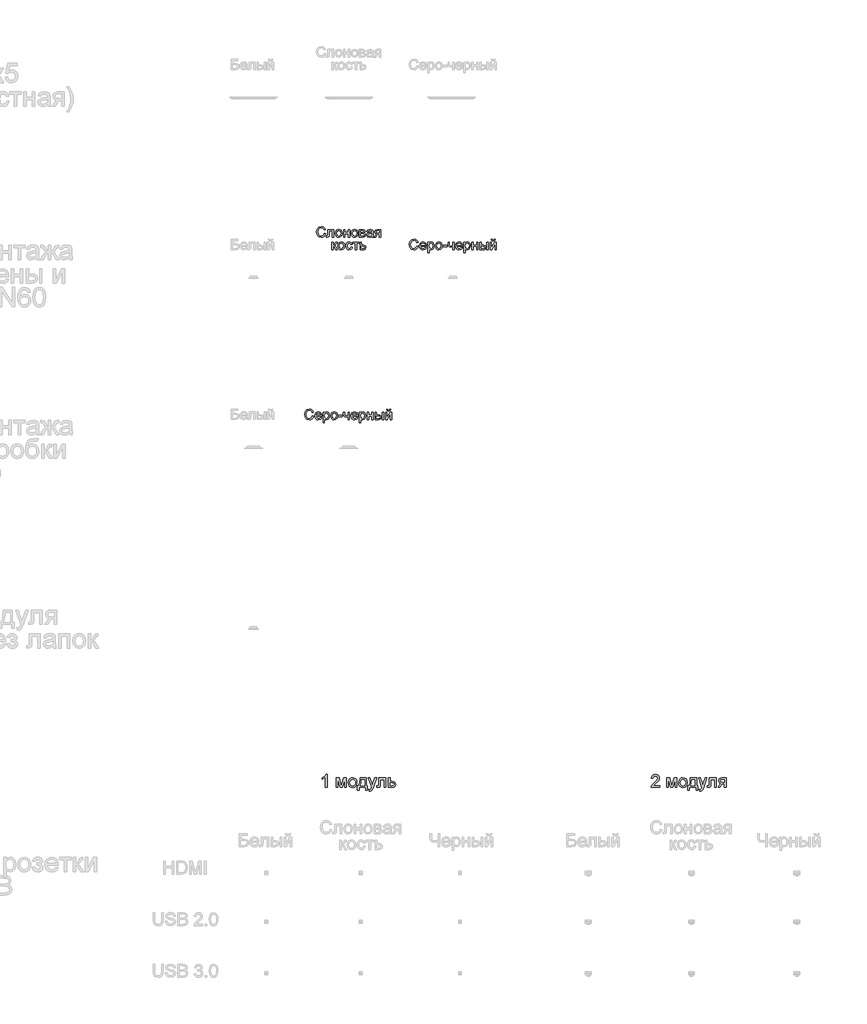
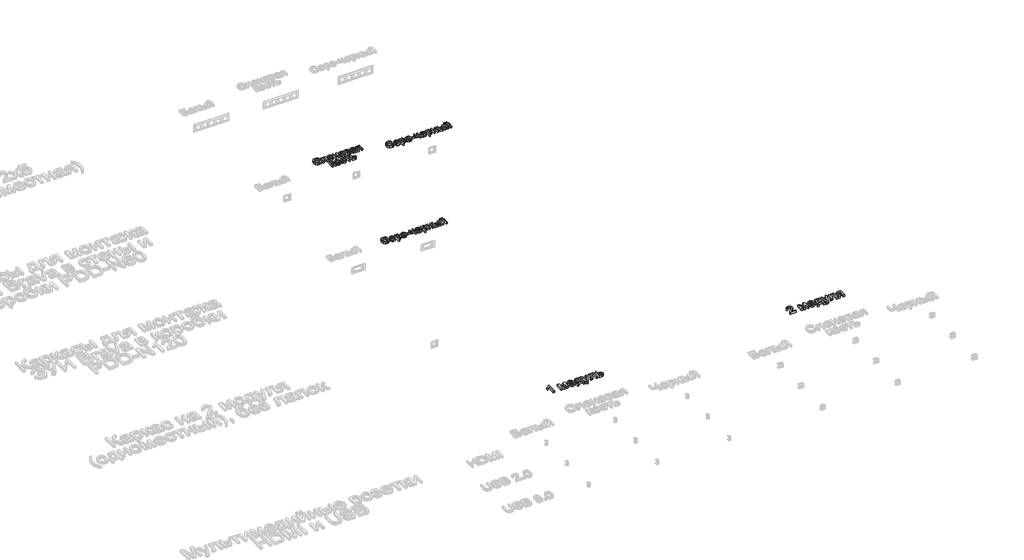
# One storey, part 38 of 47: 5 proxies.
"""IFC4 building model written with IfcOpenShell, lengths in millimetres."""

from ifc_helpers import new_model, si_unit, origin, origin_with_axes, place, context, project, spatial, polyline, outline, extrude, element, save

model = new_model("IFC4")

# Units and contexts
model_context = context("Model", 3, world=origin())
ifc_project = project(units=[si_unit("LENGTHUNIT", "METRE", prefix="MILLI")], contexts=[model_context])

# Site, building, storey
site = spatial("IfcSite", under=ifc_project)
building = spatial("IfcBuilding", under=site)
storey = spatial("IfcBuildingStorey", under=building, Name="Этаж 01", Elevation=0.0)

# Proxies
placement = place(None, origin())
element("IfcBuildingElementProxy", 1, Name="100 мм Arial", ObjectType="100 мм Arial", at=placement, inside=storey, context=model_context, shape_type="SweptSolid", body=[
    extrude(outline(polyline([(575.82677, -7703.8522966), (563.2697312, -7703.8522966), (563.2697312, -7625.567008), (551.37488, -7634.0405567), (538.1556536, -7640.3803897), (538.1556536, -7628.510064), (556.5620161, -7616.7623656), (567.7333661, -7603.3959865), (575.82677, -7603.3959865), (575.82677, -7703.8522966)])), origin_with_axes(), (0.0, 0.0, 1.0), 20.0),
    extrude(outline(polyline([(648.0297429, -7630.0796938), (669.6366787, -7630.0796938), (686.2894704, -7689.1370168), (704.2421117, -7630.0796938), (724.9416053, -7630.0796938), (724.9416053, -7703.8522966), (712.3845666, -7703.8522966), (712.3845666, -7644.4516171), (694.3338233, -7703.8522966), (677.85271, -7703.8522966), (660.5867816, -7641.606663), (660.5867816, -7703.8522966), (648.0297429, -7703.8522966), (648.0297429, -7630.0796938)])), origin_with_axes(), (0.0, 0.0, 1.0), 20.0),
    extrude(outline(polyline([(740.6379038, -7666.9659952), (743.3540992, -7649.1789008), (751.5026854, -7636.6770443), (761.5703893, -7630.5518091), (773.624656, -7628.510064), (786.8162912, -7630.9963332), (797.3530447, -7638.4551406), (804.2600292, -7650.2978752), (806.5623573, -7665.9359256), (802.4911299, -7688.2786255), (790.6330669, -7700.9215034), (773.624656, -7705.4219265), (760.2736053, -7702.9448544), (749.7491145, -7695.5136381), (742.9157065, -7683.4225831), (740.6379038, -7666.9659952)]), holes=[polyline([(753.1949426, -7666.9414698), (754.6480764, -7678.3059577), (759.0074781, -7686.4024273), (765.5680403, -7691.2492726), (773.624656, -7692.8648877), (781.6444835, -7691.2400755), (788.192783, -7686.3656391), (792.5521847, -7678.1618706), (794.0053186, -7666.5490623), (792.5429876, -7655.5156681), (788.1559948, -7647.5295632), (781.5984983, -7642.6827179), (773.624656, -7641.0671028), (765.5680403, -7642.6765865), (759.0074781, -7647.5050377), (754.6480764, -7655.5831132), (753.1949426, -7666.9414698)])]), origin_with_axes(), (0.0, 0.0, 1.0), 20.0),
    extrude(outline(polyline([(831.6764349, -7630.0796938), (878.7653302, -7630.0796938), (878.7653302, -7691.2952578), (888.1831093, -7691.2952578), (888.1831093, -7724.2574846), (875.6260706, -7724.2574846), (875.6260706, -7703.8522966), (823.8282856, -7703.8522966), (823.8282856, -7724.2574846), (811.2712469, -7724.2574846), (811.2712469, -7691.2952578), (819.1193961, -7691.2952578), (828.819218, -7667.34614), (831.6764349, -7630.0796938)]), holes=[polyline([(842.6638438, -7642.6367326), (839.7207878, -7671.2456891), (833.2460647, -7691.2952578), (866.2082915, -7691.2952578), (866.2082915, -7642.6367326), (842.6638438, -7642.6367326)])]), origin_with_axes(), (0.0, 0.0, 1.0), 20.0),
    extrude(outline(polyline([(902.3097779, -7732.1056338), (900.7401481, -7720.0145789), (907.1167693, -7721.1182249), (913.0764577, -7719.7325361), (916.7307522, -7715.8697751), (920.1643174, -7706.6236743), (921.1453361, -7703.5825165), (894.4616287, -7630.0796938), (907.7053805, -7630.0796938), (921.8565746, -7671.0372226), (926.7861934, -7687.4202342), (931.7158121, -7672.950209), (946.2594136, -7630.0796938), (959.4050636, -7630.0796938), (933.7269003, -7705.6181302), (927.0559735, -7722.0011417), (919.77191, -7730.8548351), (909.9862489, -7733.6752637), (902.3097779, -7732.1056338)])), origin_with_axes(), (0.0, 0.0, 1.0), 20.0),
    extrude(outline(polyline([(976.0823807, -7630.0796938), (1032.5890552, -7630.0796938), (1032.5890552, -7703.7787202), (1020.0320164, -7703.7787202), (1020.0320164, -7642.6367326), (988.6394195, -7642.6367326), (988.6394195, -7677.8307768), (987.7932909, -7694.0666355), (983.145715, -7700.9215034), (972.1583061, -7703.8522966), (961.9557121, -7703.2146345), (961.9557121, -7691.2952578), (967.5720439, -7691.2952578), (973.2496893, -7690.5227057), (975.518295, -7688.070159), (976.0823807, -7677.1195383), (976.0823807, -7630.0796938)])), origin_with_axes(), (0.0, 0.0, 1.0), 20.0),
    extrude(outline(polyline([(1051.4246133, -7630.0796938), (1063.9816521, -7630.0796938), (1063.9816521, -7656.7634012), (1078.4516772, -7656.7634012), (1090.9964533, -7658.3360968), (1100.2793423, -7663.0541833), (1106.0183014, -7670.5375163), (1107.9312878, -7680.4059508), (1106.3034099, -7689.3914685), (1101.4197765, -7696.9729033), (1092.9554249, -7702.1324483), (1080.5853928, -7703.8522966), (1051.4246133, -7703.8522966), (1051.4246133, -7630.0796938)]), holes=[polyline([(1063.9816521, -7691.2952578), (1075.704825, -7691.2952578), (1090.8493005, -7688.6587702), (1095.374249, -7680.4304763), (1092.0265229, -7672.7049544), (1077.2008784, -7669.32044), (1063.9816521, -7669.32044), (1063.9816521, -7691.2952578)])]), origin_with_axes(), (0.0, 0.0, 1.0), 20.0),
])
element("IfcBuildingElementProxy", 2, Name="100 мм Arial", ObjectType="100 мм Arial", at=placement, inside=storey, context=model_context, shape_type="SweptSolid", body=[
    extrude(outline(polyline([(3154.1905041, -7691.2952578), (3154.1905041, -7703.8522966), (3088.2660506, -7703.8522966), (3089.6149513, -7695.194807), (3097.2423713, -7681.865216), (3112.9631952, -7667.3093518), (3134.6437075, -7646.389129), (3140.0638355, -7632.1643585), (3134.9502758, -7620.649652), (3121.5961594, -7615.9530252), (3107.6779572, -7620.5392874), (3102.3927192, -7633.2189535), (3089.8356805, -7631.6493237), (3092.879904, -7619.5030865), (3099.461926, -7610.630999), (3109.23839, -7605.2047396), (3121.8659395, -7603.3959865), (3134.5854595, -7605.4070747), (3144.3435294, -7611.4403394), (3150.5515381, -7620.4534483), (3152.6208743, -7631.404069), (3150.3890569, -7643.3111829), (3142.9701033, -7655.622967), (3124.9806737, -7672.8275817), (3110.535174, -7684.9063739), (3104.8697913, -7691.2952578), (3154.1905041, -7691.2952578)])), origin_with_axes(), (0.0, 0.0, 1.0), 20.0),
    extrude(outline(polyline([(3209.1275488, -7630.0796938), (3230.7344846, -7630.0796938), (3247.3872763, -7689.1370168), (3265.3399176, -7630.0796938), (3286.0394112, -7630.0796938), (3286.0394112, -7703.8522966), (3273.4823724, -7703.8522966), (3273.4823724, -7644.4516171), (3255.4316292, -7703.8522966), (3238.9505158, -7703.8522966), (3221.6845875, -7641.606663), (3221.6845875, -7703.8522966), (3209.1275488, -7703.8522966), (3209.1275488, -7630.0796938)])), origin_with_axes(), (0.0, 0.0, 1.0), 20.0),
    extrude(outline(polyline([(3301.7357097, -7666.9659952), (3304.4519051, -7649.1789008), (3312.6004913, -7636.6770443), (3322.6681952, -7630.5518091), (3334.7224619, -7628.510064), (3347.9140971, -7630.9963332), (3358.4508506, -7638.4551406), (3365.3578351, -7650.2978752), (3367.6601632, -7665.9359256), (3363.5889358, -7688.2786255), (3351.7308728, -7700.9215034), (3334.7224619, -7705.4219265), (3321.3714112, -7702.9448544), (3310.8469204, -7695.5136381), (3304.0135124, -7683.4225831), (3301.7357097, -7666.9659952)]), holes=[polyline([(3314.2927484, -7666.9414698), (3315.7458823, -7678.3059577), (3320.105284, -7686.4024273), (3326.6658462, -7691.2492726), (3334.7224619, -7692.8648877), (3342.7422894, -7691.2400755), (3349.2905889, -7686.3656391), (3353.6499906, -7678.1618706), (3355.1031244, -7666.5490623), (3353.6407935, -7655.5156681), (3349.2538007, -7647.5295632), (3342.6963042, -7642.6827179), (3334.7224619, -7641.0671028), (3326.6658462, -7642.6765865), (3320.105284, -7647.5050377), (3315.7458823, -7655.5831132), (3314.2927484, -7666.9414698)])]), origin_with_axes(), (0.0, 0.0, 1.0), 20.0),
    extrude(outline(polyline([(3392.7742407, -7630.0796938), (3439.8631361, -7630.0796938), (3439.8631361, -7691.2952578), (3449.2809152, -7691.2952578), (3449.2809152, -7724.2574846), (3436.7238764, -7724.2574846), (3436.7238764, -7703.8522966), (3384.9260915, -7703.8522966), (3384.9260915, -7724.2574846), (3372.3690528, -7724.2574846), (3372.3690528, -7691.2952578), (3380.217202, -7691.2952578), (3389.9170239, -7667.34614), (3392.7742407, -7630.0796938)]), holes=[polyline([(3403.7616497, -7642.6367326), (3400.8185937, -7671.2456891), (3394.3438706, -7691.2952578), (3427.3060974, -7691.2952578), (3427.3060974, -7642.6367326), (3403.7616497, -7642.6367326)])]), origin_with_axes(), (0.0, 0.0, 1.0), 20.0),
    extrude(outline(polyline([(3463.4075838, -7732.1056338), (3461.837954, -7720.0145789), (3468.2145752, -7721.1182249), (3474.1742635, -7719.7325361), (3477.828558, -7715.8697751), (3481.2621233, -7706.6236743), (3482.243142, -7703.5825165), (3455.5594346, -7630.0796938), (3468.8031864, -7630.0796938), (3482.9543805, -7671.0372226), (3487.8839992, -7687.4202342), (3492.813618, -7672.950209), (3507.3572195, -7630.0796938), (3520.5028695, -7630.0796938), (3494.8247062, -7705.6181302), (3488.1537794, -7722.0011417), (3480.8697159, -7730.8548351), (3471.0840548, -7733.6752637), (3463.4075838, -7732.1056338)])), origin_with_axes(), (0.0, 0.0, 1.0), 20.0),
    extrude(outline(polyline([(3537.1801866, -7630.0796938), (3593.686861, -7630.0796938), (3593.686861, -7703.7787202), (3581.1298223, -7703.7787202), (3581.1298223, -7642.6367326), (3549.7372254, -7642.6367326), (3549.7372254, -7677.8307768), (3548.8910968, -7694.0666355), (3544.2435209, -7700.9215034), (3533.256112, -7703.8522966), (3523.053518, -7703.2146345), (3523.053518, -7691.2952578), (3528.6698498, -7691.2952578), (3534.3474952, -7690.5227057), (3536.6161009, -7688.070159), (3537.1801866, -7677.1195383), (3537.1801866, -7630.0796938)])), origin_with_axes(), (0.0, 0.0, 1.0), 20.0),
    extrude(outline(polyline([(3669.0290937, -7630.0796938), (3669.0290937, -7703.8522966), (3656.4720549, -7703.8522966), (3656.4720549, -7675.5989594), (3649.6294498, -7675.5989594), (3640.3097726, -7677.1931147), (3631.5541811, -7687.9107435), (3621.5477908, -7703.8522966), (3607.0287147, -7703.8522966), (3619.6348044, -7683.6923633), (3630.3279078, -7673.2445146), (3621.7439945, -7670.6141583), (3615.7107298, -7665.6170946), (3610.9527894, -7651.3923241), (3612.5776015, -7642.7961481), (3617.4520379, -7635.9903312), (3625.4044204, -7631.5573532), (3636.2630706, -7630.0796938), (3669.0290937, -7630.0796938)]), holes=[polyline([(3656.4720549, -7642.6367326), (3639.9173651, -7642.6367326), (3626.5141978, -7645.5430004), (3623.5098281, -7652.3488173), (3627.9366748, -7660.4544839), (3643.6207105, -7663.0419206), (3656.4720549, -7663.0419206), (3656.4720549, -7642.6367326)])]), origin_with_axes(), (0.0, 0.0, 1.0), 20.0),
])
element("IfcBuildingElementProxy", 3, Name="80 мм Arial", ObjectType="80 мм Arial", at=placement, inside=storey, context=model_context, shape_type="SweptSolid", body=[
    extrude(outline(polyline([(554.1498044, -3409.7697021), (564.1954354, -3412.3595914), (559.5601223, -3424.0655965), (552.2858689, -3432.6176266), (542.7307473, -3437.8489086), (531.252829, -3439.5926692), (510.3473215, -3434.3147889), (498.0845883, -3419.0305182), (493.8760183, -3397.5462097), (498.6339588, -3375.7087345), (512.162206, -3361.5526353), (531.4686531, -3356.7162133), (542.48304, -3358.2809381), (551.5893457, -3362.9751124), (558.5030747, -3370.5093356), (562.9397315, -3380.5942074), (552.8941005, -3382.9878929), (544.6535438, -3370.636868), (531.0762456, -3366.7618444), (515.3603268, -3371.0587061), (506.482108, -3382.5954854), (503.9216493, -3397.5265893), (506.9529969, -3414.8317584), (516.3903964, -3425.8878386), (530.25219, -3429.5470382), (545.6247523, -3424.5634634), (554.1498044, -3409.7697021)])), origin_with_axes(), (0.0, 0.0, 1.0), 20.0),
    extrude(outline(polyline([(581.7752897, -3379.3188831), (626.9806292, -3379.3188831), (626.9806292, -3438.2781042), (616.9349982, -3438.2781042), (616.9349982, -3389.3645141), (591.8209207, -3389.3645141), (591.8209207, -3417.5197495), (591.1440178, -3430.5084365), (587.4259571, -3435.9923308), (578.63603, -3438.3369653), (570.4739548, -3437.8268356), (570.4739548, -3428.2913343), (574.9670202, -3428.2913343), (579.5091366, -3427.6732926), (581.3240211, -3425.7112553), (581.7752897, -3416.9507587), (581.7752897, -3379.3188831)])), origin_with_axes(), (0.0, 0.0, 1.0), 20.0),
    extrude(outline(polyline([(639.537668, -3408.8279242), (641.7106243, -3394.5982487), (648.2294933, -3384.5967635), (656.2836564, -3379.6965753), (665.9270698, -3378.0631792), (676.480378, -3380.0521946), (684.9097807, -3386.0192405), (690.4353683, -3395.4934282), (692.2772308, -3408.0038686), (689.0202489, -3425.8780284), (679.5337985, -3435.9923308), (665.9270698, -3439.5926692), (655.2462292, -3437.6110115), (646.8266366, -3431.6660385), (641.3599102, -3421.9931946), (639.537668, -3408.8279242)]), holes=[polyline([(649.583299, -3408.8083039), (654.2333274, -3424.3770699), (665.9270698, -3429.5470382), (677.5815714, -3424.3476393), (682.2315998, -3408.4943779), (677.5521408, -3393.2787786), (665.9270698, -3388.1088103), (654.2333274, -3393.2591582), (649.583299, -3408.8083039)])]), origin_with_axes(), (0.0, 0.0, 1.0), 20.0),
    extrude(outline(polyline([(703.5785657, -3379.3188831), (713.6241967, -3379.3188831), (713.6241967, -3401.9215529), (739.9939782, -3401.9215529), (739.9939782, -3379.3188831), (750.0396092, -3379.3188831), (750.0396092, -3438.3369653), (739.9939782, -3438.3369653), (739.9939782, -3411.9671839), (713.6241967, -3411.9671839), (713.6241967, -3438.3369653), (703.5785657, -3438.3369653), (703.5785657, -3379.3188831)])), origin_with_axes(), (0.0, 0.0, 1.0), 20.0),
    extrude(outline(polyline([(762.5966479, -3408.8279242), (764.7696043, -3394.5982487), (771.2884732, -3384.5967635), (779.3426364, -3379.6965753), (788.9860497, -3378.0631792), (799.5393579, -3380.0521946), (807.9687607, -3386.0192405), (813.4943482, -3395.4934282), (815.3362108, -3408.0038686), (812.0792288, -3425.8780284), (802.5927785, -3435.9923308), (788.9860497, -3439.5926692), (778.3052091, -3437.6110115), (769.8856165, -3431.6660385), (764.4188901, -3421.9931946), (762.5966479, -3408.8279242)]), holes=[polyline([(772.642279, -3408.8083039), (777.2923074, -3424.3770699), (788.9860497, -3429.5470382), (800.6405513, -3424.3476393), (805.2905798, -3408.4943779), (800.6111208, -3393.2787786), (788.9860497, -3388.1088103), (777.2923074, -3393.2591582), (772.642279, -3408.8083039)])]), origin_with_axes(), (0.0, 0.0, 1.0), 20.0),
    extrude(outline(polyline([(826.6375457, -3379.3188831), (848.7693265, -3379.3188831), (860.9045272, -3380.6628787), (867.7324171, -3385.5875923), (870.5871814, -3394.1715055), (868.8605885, -3401.1465482), (863.6611897, -3406.1203127), (870.410598, -3411.5649663), (873.0985891, -3421.0317963), (867.3498198, -3434.0793444), (852.163651, -3438.3369653), (826.6375457, -3438.3369653), (826.6375457, -3379.3188831)]), holes=[polyline([(836.6831767, -3401.9215529), (846.6110855, -3401.9215529), (854.8025912, -3401.4114232), (858.7855269, -3399.3709044), (860.5415503, -3395.6822743), (857.4611518, -3390.7575606), (846.9250114, -3389.3645141), (836.6831767, -3389.3645141), (836.6831767, -3401.9215529)]), polyline([(836.6831767, -3428.2913343), (849.004771, -3428.2913343), (859.9333188, -3426.4764498), (863.0529581, -3420.2077406), (861.3361754, -3415.3713187), (856.8627304, -3412.5557951), (848.0237523, -3411.9671839), (836.6831767, -3411.9671839), (836.6831767, -3428.2913343)])]), origin_with_axes(), (0.0, 0.0, 1.0), 20.0),
    extrude(outline(polyline([(923.3267442, -3430.8027421), (913.585229, -3437.6110115), (902.8234543, -3439.5926692), (888.2357069, -3434.8249186), (883.1442201, -3422.6406669), (885.0670167, -3414.6944158), (890.1192628, -3408.9260261), (897.1531665, -3405.6298034), (905.8449918, -3404.1190347), (923.2678831, -3400.665849), (923.3267442, -3398.4291265), (920.5602716, -3391.0126255), (909.4551404, -3388.1088103), (899.2917872, -3390.041417), (894.445555, -3396.8987374), (884.399924, -3395.6430335), (888.7458366, -3385.832847), (897.496523, -3380.0840777), (910.750085, -3378.0631792), (922.9245265, -3379.8486332), (929.8014673, -3384.3318884), (932.8818659, -3391.1499681), (933.3723752, -3399.9398952), (933.3723752, -3412.4380729), (933.8825049, -3429.8903947), (935.883783, -3438.3369653), (925.8381519, -3438.3369653), (923.3267442, -3430.8027421)]), holes=[polyline([(923.3267442, -3410.71148), (907.120316, -3413.7918786), (898.4775417, -3415.4203696), (894.5632773, -3418.06912), (893.1898511, -3421.9343334), (896.181958, -3427.3691768), (904.962075, -3429.5470382), (915.1254282, -3427.1435425), (921.6786328, -3421.3261019), (923.2678831, -3413.5564341), (923.3267442, -3410.71148)])]), origin_with_axes(), (0.0, 0.0, 1.0), 20.0),
    extrude(outline(polyline([(992.3904574, -3379.3188831), (992.3904574, -3438.3369653), (982.3448264, -3438.3369653), (982.3448264, -3415.7342956), (976.8707423, -3415.7342956), (969.4150005, -3417.0096198), (962.4105274, -3425.5837228), (954.4054151, -3438.3369653), (942.7901543, -3438.3369653), (952.875026, -3422.2090187), (961.4295087, -3413.8507397), (949.7357663, -3407.7488037), (945.929414, -3396.3689873), (951.1288128, -3384.047393), (966.177639, -3379.3188831), (992.3904574, -3379.3188831)]), holes=[polyline([(982.3448264, -3389.3645141), (969.1010746, -3389.3645141), (958.3785407, -3391.6895284), (955.975045, -3397.1341819), (959.5165223, -3403.6187152), (972.0637509, -3405.6886645), (982.3448264, -3405.6886645), (982.3448264, -3389.3645141)])]), origin_with_axes(), (0.0, 0.0, 1.0), 20.0),
    extrude(outline(polyline([(613.7957385, -3476.8987374), (623.8413695, -3476.8987374), (623.8413695, -3502.0128149), (630.5711575, -3500.2077406), (636.0844823, -3489.6912206), (640.6658395, -3480.6167981), (644.7076363, -3477.663932), (652.055466, -3476.8987374), (653.9782626, -3476.8987374), (653.9782626, -3487.0032295), (651.2706511, -3486.9443684), (646.3655578, -3488.0038686), (642.9123722, -3494.6159343), (638.8607651, -3501.7675603), (633.1806671, -3505.2697969), (639.5180476, -3509.1791562), (645.7377059, -3517.4148078), (656.4896703, -3535.9168196), (645.0706132, -3535.9168196), (634.5344729, -3517.8072153), (629.2369721, -3510.1454596), (623.8413695, -3508.2913343), (623.8413695, -3535.9168196), (613.7957385, -3535.9168196), (613.7957385, -3476.8987374)])), origin_with_axes(), (0.0, 0.0, 1.0), 20.0),
    extrude(outline(polyline([(660.256782, -3506.4077785), (662.4297383, -3492.1781029), (668.9486073, -3482.1766178), (677.0027704, -3477.2764296), (686.6461838, -3475.6430335), (697.1994919, -3477.6320488), (705.6288947, -3483.5990948), (711.1544823, -3493.0732825), (712.9963448, -3505.5837228), (709.7393629, -3523.4578827), (700.2529125, -3533.572185), (686.6461838, -3537.1725235), (675.9653432, -3535.1908658), (667.5457506, -3529.2458928), (662.0790241, -3519.5730488), (660.256782, -3506.4077785)]), holes=[polyline([(670.302413, -3506.3881581), (674.9524414, -3521.9569242), (686.6461838, -3527.1268925), (698.3006854, -3521.9274936), (702.9507138, -3506.0742322), (698.2712548, -3490.8586328), (686.6461838, -3485.6886645), (674.9524414, -3490.8390125), (670.302413, -3506.3881581)])]), origin_with_axes(), (0.0, 0.0, 1.0), 20.0),
    extrude(outline(polyline([(761.968796, -3514.5698537), (772.014427, -3515.8255576), (769.2136188, -3524.760185), (763.9504537, -3531.5120459), (748.0187107, -3537.1725235), (737.3329651, -3535.1982235), (728.9771387, -3529.2753233), (723.5839886, -3519.6637931), (721.7862719, -3506.6236026), (724.8568603, -3489.9364753), (734.2157783, -3479.2139414), (747.8813681, -3475.6430335), (763.1558286, -3480.5481268), (770.7587231, -3494.4785917), (760.7130921, -3495.7342956), (756.0532535, -3488.2098825), (747.9598496, -3485.6886645), (736.3151582, -3490.6526189), (731.831903, -3506.3489174), (736.2170563, -3522.1923686), (747.6851644, -3527.1268925), (757.1519944, -3524.0464939), (761.968796, -3514.5698537)])), origin_with_axes(), (0.0, 0.0, 1.0), 20.0),
    extrude(outline(polyline([(775.7815387, -3476.8987374), (823.498286, -3476.8987374), (823.498286, -3486.9443684), (804.6627278, -3486.9443684), (804.6627278, -3535.9168196), (794.6170968, -3535.9168196), (794.6170968, -3486.9443684), (775.7815387, -3486.9443684), (775.7815387, -3476.8987374)])), origin_with_axes(), (0.0, 0.0, 1.0), 20.0),
    extrude(outline(polyline([(832.2882131, -3476.8987374), (842.3338441, -3476.8987374), (842.3338441, -3498.2457033), (853.9098642, -3498.2457033), (871.3719963, -3503.278329), (875.9631636, -3509.2649953), (877.4935527, -3517.159743), (872.2843436, -3530.413305), (865.5128624, -3534.540941), (855.6168367, -3535.9168196), (832.2882131, -3535.9168196), (832.2882131, -3476.8987374)]), holes=[polyline([(842.3338441, -3525.8711886), (851.7123825, -3525.8711886), (863.8279628, -3523.7619985), (867.4479217, -3517.1793633), (864.7697407, -3510.9989458), (852.9092252, -3508.2913343), (842.3338441, -3508.2913343), (842.3338441, -3525.8711886)])]), origin_with_axes(), (0.0, 0.0, 1.0), 20.0),
])
element("IfcBuildingElementProxy", 4, Name="80 мм Arial", ObjectType="80 мм Arial", at=placement, inside=storey, context=model_context, shape_type="SweptSolid", body=[
    extrude(outline(polyline([(1272.5444141, -3507.3495564), (1282.5900451, -3509.9394457), (1277.954732, -3521.6454507), (1270.6804787, -3530.1974809), (1261.125357, -3535.4287628), (1249.6474387, -3537.1725235), (1228.7419312, -3531.8946431), (1216.4791981, -3516.6103725), (1212.270628, -3495.126064), (1217.0285685, -3473.2885888), (1230.5568157, -3459.1324896), (1249.8632628, -3454.2960676), (1260.8776498, -3455.8607924), (1269.9839554, -3460.5549666), (1276.8976844, -3468.0891899), (1281.3343413, -3478.1740617), (1271.2887102, -3480.5677472), (1263.0481536, -3468.2167223), (1249.4708554, -3464.3416986), (1233.7549366, -3468.6385603), (1224.8767177, -3480.1753397), (1222.3162591, -3495.1064436), (1225.3476067, -3512.4116127), (1234.7850061, -3523.4676929), (1248.6467997, -3527.1268925), (1264.019362, -3522.1433177), (1272.5444141, -3507.3495564)])), origin_with_axes(), (0.0, 0.0, 1.0), 20.0),
    extrude(outline(polyline([(1336.4675896, -3518.3369653), (1346.3170169, -3519.5926692), (1337.1052517, -3532.5617358), (1319.9472355, -3537.1725235), (1308.1602964, -3535.1835082), (1299.0907789, -3529.2164622), (1293.3076739, -3519.658888), (1291.3799723, -3506.8982878), (1293.3272943, -3493.708492), (1299.1692604, -3483.8443495), (1308.1161505, -3477.6933625), (1319.3782447, -3475.6430335), (1330.2896246, -3477.6884574), (1339.0084279, -3483.8247291), (1344.7253141, -3493.6692513), (1346.6309429, -3506.8394267), (1346.5720817, -3509.5470382), (1301.4256033, -3509.5470382), (1307.2038032, -3522.5945863), (1320.1434392, -3527.1268925), (1329.9928665, -3525.0275126), (1336.4675896, -3518.3369653)]), holes=[polyline([(1301.4256033, -3499.5014072), (1336.5853118, -3499.5014072), (1332.5631354, -3490.3975541), (1319.3390039, -3485.6886645), (1306.9683587, -3489.445966), (1301.4256033, -3499.5014072)])]), origin_with_axes(), (0.0, 0.0, 1.0), 20.0),
    extrude(outline(polyline([(1356.6765739, -3558.5194894), (1356.6765739, -3476.8987374), (1366.7222049, -3476.8987374), (1366.7222049, -3486.7481647), (1373.667817, -3478.4193163), (1383.0463553, -3475.6430335), (1395.7799774, -3479.5278674), (1404.0990156, -3490.4760356), (1406.904729, -3505.9565099), (1403.7360387, -3522.2316094), (1394.5340837, -3533.3171202), (1381.8298922, -3537.1725235), (1373.089016, -3534.5924444), (1366.7222049, -3528.0686704), (1366.7222049, -3558.5194894), (1356.6765739, -3558.5194894)]), holes=[polyline([(1366.7222049, -3506.8786675), (1371.0681175, -3522.1825585), (1381.6140681, -3527.1268925), (1392.3758427, -3522.0059751), (1396.8590979, -3506.1330933), (1392.4837547, -3490.7899615), (1382.0260959, -3485.6886645), (1371.3624231, -3491.1136977), (1366.7222049, -3506.8786675)])]), origin_with_axes(), (0.0, 0.0, 1.0), 20.0),
    extrude(outline(polyline([(1415.6946561, -3506.4077785), (1417.8676124, -3492.1781029), (1424.3864814, -3482.1766178), (1432.4406445, -3477.2764296), (1442.0840579, -3475.6430335), (1452.637366, -3477.6320488), (1461.0667688, -3483.5990948), (1466.5923564, -3493.0732825), (1468.4342189, -3505.5837228), (1465.177237, -3523.4578827), (1455.6907866, -3533.572185), (1442.0840579, -3537.1725235), (1431.4032173, -3535.1908658), (1422.9836247, -3529.2458928), (1417.5168982, -3519.5730488), (1415.6946561, -3506.4077785)]), holes=[polyline([(1425.7402871, -3506.3881581), (1430.3903155, -3521.9569242), (1442.0840579, -3527.1268925), (1453.7385595, -3521.9274936), (1458.3885879, -3506.0742322), (1453.7091289, -3490.8586328), (1442.0840579, -3485.6886645), (1430.3903155, -3490.8390125), (1425.7402871, -3506.3881581)])]), origin_with_axes(), (0.0, 0.0, 1.0), 20.0),
    extrude(outline(polyline([(1474.7127383, -3512.058446), (1474.7127383, -3502.0128149), (1506.1053352, -3502.0128149), (1506.1053352, -3512.058446), (1474.7127383, -3512.058446)])), origin_with_axes(), (0.0, 0.0, 1.0), 20.0),
    extrude(outline(polyline([(1513.6395585, -3476.8987374), (1523.6851895, -3476.8987374), (1523.6851895, -3488.2196927), (1524.499435, -3498.8343145), (1528.4136994, -3504.5830838), (1536.1833671, -3507.0356304), (1550.0549709, -3503.9944726), (1550.0549709, -3476.8987374), (1560.1006019, -3476.8987374), (1560.1006019, -3535.9168196), (1550.0549709, -3535.9168196), (1550.0549709, -3513.6280758), (1533.495376, -3517.0812615), (1522.1057495, -3513.480923), (1515.4053921, -3504.6615653), (1513.6395585, -3493.1836471), (1513.6395585, -3476.8987374)])), origin_with_axes(), (0.0, 0.0, 1.0), 20.0),
    extrude(outline(polyline([(1616.4895541, -3518.3369653), (1626.3389814, -3519.5926692), (1617.1272163, -3532.5617358), (1599.9692, -3537.1725235), (1588.1822609, -3535.1835082), (1579.1127434, -3529.2164622), (1573.3296385, -3519.658888), (1571.4019368, -3506.8982878), (1573.3492588, -3493.708492), (1579.1912249, -3483.8443495), (1588.1381151, -3477.6933625), (1599.4002092, -3475.6430335), (1610.3115892, -3477.6884574), (1619.0303925, -3483.8247291), (1624.7472787, -3493.6692513), (1626.6529074, -3506.8394267), (1626.5940463, -3509.5470382), (1581.4475678, -3509.5470382), (1587.2257677, -3522.5945863), (1600.1654038, -3527.1268925), (1610.014831, -3525.0275126), (1616.4895541, -3518.3369653)]), holes=[polyline([(1581.4475678, -3499.5014072), (1616.6072764, -3499.5014072), (1612.5850999, -3490.3975541), (1599.3609685, -3485.6886645), (1586.9903232, -3489.445966), (1581.4475678, -3499.5014072)])]), origin_with_axes(), (0.0, 0.0, 1.0), 20.0),
    extrude(outline(polyline([(1636.6985384, -3558.5194894), (1636.6985384, -3476.8987374), (1646.7441694, -3476.8987374), (1646.7441694, -3486.7481647), (1653.6897815, -3478.4193163), (1663.0683198, -3475.6430335), (1675.801942, -3479.5278674), (1684.1209801, -3490.4760356), (1686.9266935, -3505.9565099), (1683.7580032, -3522.2316094), (1674.5560483, -3533.3171202), (1661.8518567, -3537.1725235), (1653.1109805, -3534.5924444), (1646.7441694, -3528.0686704), (1646.7441694, -3558.5194894), (1636.6985384, -3558.5194894)]), holes=[polyline([(1646.7441694, -3506.8786675), (1651.0900821, -3522.1825585), (1661.6360326, -3527.1268925), (1672.3978072, -3522.0059751), (1676.8810625, -3506.1330933), (1672.5057193, -3490.7899615), (1662.0480604, -3485.6886645), (1651.3843877, -3491.1136977), (1646.7441694, -3506.8786675)])]), origin_with_axes(), (0.0, 0.0, 1.0), 20.0),
    extrude(outline(polyline([(1698.2280284, -3476.8987374), (1708.2736594, -3476.8987374), (1708.2736594, -3499.5014072), (1734.6434408, -3499.5014072), (1734.6434408, -3476.8987374), (1744.6890718, -3476.8987374), (1744.6890718, -3535.9168196), (1734.6434408, -3535.9168196), (1734.6434408, -3509.5470382), (1708.2736594, -3509.5470382), (1708.2736594, -3535.9168196), (1698.2280284, -3535.9168196), (1698.2280284, -3476.8987374)])), origin_with_axes(), (0.0, 0.0, 1.0), 20.0),
    extrude(outline(polyline([(1815.0084889, -3476.8987374), (1825.0541199, -3476.8987374), (1825.0541199, -3535.9168196), (1815.0084889, -3535.9168196), (1815.0084889, -3476.8987374)])), origin_with_axes(), (0.0, 0.0, 1.0), 20.0),
    extrude(outline(polyline([(1759.7575184, -3476.8987374), (1769.8031494, -3476.8987374), (1769.8031494, -3498.2457033), (1782.2228455, -3498.2457033), (1800.9112509, -3503.278329), (1805.833512, -3509.2649953), (1807.4742657, -3517.159743), (1801.970751, -3530.413305), (1794.8215776, -3534.540941), (1784.3810866, -3535.9168196), (1759.7575184, -3535.9168196), (1759.7575184, -3476.8987374)]), holes=[polyline([(1769.8031494, -3525.8711886), (1780.1234656, -3525.8711886), (1793.4456989, -3523.7619985), (1797.4286347, -3517.1793633), (1794.4757685, -3510.9989458), (1781.4380306, -3508.2913343), (1769.8031494, -3508.2913343), (1769.8031494, -3525.8711886)])]), origin_with_axes(), (0.0, 0.0, 1.0), 20.0),
    extrude(outline(polyline([(1840.1225665, -3476.8987374), (1850.1681975, -3476.8987374), (1850.1681975, -3521.9078732), (1874.8506268, -3476.8987374), (1887.8393138, -3476.8987374), (1887.8393138, -3535.9168196), (1877.7936828, -3535.9168196), (1877.7936828, -3491.182369), (1853.2682164, -3535.9168196), (1840.1225665, -3535.9168196), (1840.1225665, -3476.8987374)])), origin_with_axes(), (0.0, 0.0, 1.0), 20.0),
    extrude(outline(polyline([(1872.7708673, -3455.5517715), (1880.3050905, -3455.5517715), (1875.4294278, -3466.725574), (1864.6087921, -3470.620218), (1852.8954293, -3466.7550045), (1847.6567897, -3455.5517715), (1855.191013, -3455.5517715), (1858.0163467, -3461.2122491), (1863.7062549, -3463.0859948), (1869.9455335, -3461.2711102), (1872.7708673, -3455.5517715)])), origin_with_axes(), (0.0, 0.0, 1.0), 20.0),
])
element("IfcBuildingElementProxy", 5, Name="80 мм Arial", ObjectType="80 мм Arial", at=placement, inside=storey, context=model_context, shape_type="SweptSolid", body=[
    extrude(outline(polyline([(461.6776604, -4824.7247987), (471.7232914, -4827.3146879), (467.0879783, -4839.020693), (459.813725, -4847.5727231), (450.2586033, -4852.8040051), (438.780685, -4854.5477657), (417.8751775, -4849.2698854), (405.6124443, -4833.9856148), (401.4038743, -4812.5013062), (406.1618148, -4790.663831), (419.690062, -4776.5077318), (438.9965091, -4771.6713099), (450.0108961, -4773.2360346), (459.1172017, -4777.9302089), (466.0309307, -4785.4644321), (470.4675875, -4795.5493039), (460.4219565, -4797.9429894), (452.1813998, -4785.5919646), (438.6041017, -4781.7169409), (422.8881828, -4786.0138026), (414.009964, -4797.550582), (411.4495053, -4812.4816859), (414.480853, -4829.7868549), (423.9182524, -4840.8429351), (437.780046, -4844.5021347), (453.1526083, -4839.51856), (461.6776604, -4824.7247987)])), origin_with_axes(), (0.0, 0.0, 1.0), 20.0),
    extrude(outline(polyline([(525.6008359, -4835.7122076), (535.4502632, -4836.9679115), (526.238498, -4849.9369781), (509.0804817, -4854.5477657), (497.2935426, -4852.5587504), (488.2240252, -4846.5917045), (482.4409202, -4837.0341302), (480.5132185, -4824.2735301), (482.4605406, -4811.0837343), (488.3025067, -4801.2195917), (497.2493968, -4795.0686048), (508.5114909, -4793.0182758), (519.4228709, -4795.0636997), (528.1416742, -4801.1999713), (533.8585604, -4811.0444935), (535.7641891, -4824.214669), (535.705328, -4826.9222804), (490.5588496, -4826.9222804), (496.3370494, -4839.9698285), (509.2766855, -4844.5021347), (519.1261128, -4842.4027548), (525.6008359, -4835.7122076)]), holes=[polyline([(490.5588496, -4816.8766494), (525.7185581, -4816.8766494), (521.6963816, -4807.7727963), (508.4722502, -4803.0639068), (496.101605, -4806.8212082), (490.5588496, -4816.8766494)])]), origin_with_axes(), (0.0, 0.0, 1.0), 20.0),
    extrude(outline(polyline([(545.8098201, -4875.8947316), (545.8098201, -4794.2739797), (555.8554512, -4794.2739797), (555.8554512, -4804.1234069), (562.8010632, -4795.7945586), (572.1796016, -4793.0182758), (584.9132237, -4796.9031096), (593.2322619, -4807.8512778), (596.0379752, -4823.3317522), (592.869285, -4839.6068516), (583.66733, -4850.6923624), (570.9631384, -4854.5477657), (562.2222622, -4851.9676867), (555.8554512, -4845.4439126), (555.8554512, -4875.8947316), (545.8098201, -4875.8947316)]), holes=[polyline([(555.8554512, -4824.2539097), (560.2013638, -4839.5578007), (570.7473143, -4844.5021347), (581.509089, -4839.3812174), (585.9923442, -4823.5083355), (581.617001, -4808.1652038), (571.1593422, -4803.0639068), (560.4956694, -4808.4889399), (555.8554512, -4824.2539097)])]), origin_with_axes(), (0.0, 0.0, 1.0), 20.0),
    extrude(outline(polyline([(604.8279024, -4823.7830208), (607.0008587, -4809.5533452), (613.5197276, -4799.55186), (621.5738908, -4794.6516718), (631.2173041, -4793.0182758), (641.7706123, -4795.0072911), (650.2000151, -4800.9743371), (655.7256027, -4810.4485247), (657.5674652, -4822.9589651), (654.3104833, -4840.833125), (644.8240329, -4850.9474273), (631.2173041, -4854.5477657), (620.5364636, -4852.5661081), (612.116871, -4846.621135), (606.6501445, -4836.9482911), (604.8279024, -4823.7830208)]), holes=[polyline([(614.8735334, -4823.7634004), (619.5235618, -4839.3321664), (631.2173041, -4844.5021347), (642.8718058, -4839.3027359), (647.5218342, -4823.4494744), (642.8423752, -4808.2338751), (631.2173041, -4803.0639068), (619.5235618, -4808.2142547), (614.8735334, -4823.7634004)])]), origin_with_axes(), (0.0, 0.0, 1.0), 20.0),
    extrude(outline(polyline([(663.8459846, -4829.4336882), (663.8459846, -4819.3880572), (695.2385815, -4819.3880572), (695.2385815, -4829.4336882), (663.8459846, -4829.4336882)])), origin_with_axes(), (0.0, 0.0, 1.0), 20.0),
    extrude(outline(polyline([(702.7728048, -4794.2739797), (712.8184358, -4794.2739797), (712.8184358, -4805.5949349), (713.6326813, -4816.2095567), (717.5469457, -4821.9583261), (725.3166134, -4824.4108727), (739.1882172, -4821.3697149), (739.1882172, -4794.2739797), (749.2338482, -4794.2739797), (749.2338482, -4853.2920619), (739.1882172, -4853.2920619), (739.1882172, -4831.003318), (722.6286223, -4834.4565037), (711.2389957, -4830.8561653), (704.5386383, -4822.0368076), (702.7728048, -4810.5588893), (702.7728048, -4794.2739797)])), origin_with_axes(), (0.0, 0.0, 1.0), 20.0),
    extrude(outline(polyline([(805.6228004, -4835.7122076), (815.4722277, -4836.9679115), (806.2604625, -4849.9369781), (789.1024463, -4854.5477657), (777.3155072, -4852.5587504), (768.2459897, -4846.5917045), (762.4628847, -4837.0341302), (760.5351831, -4824.2735301), (762.4825051, -4811.0837343), (768.3244712, -4801.2195917), (777.2713613, -4795.0686048), (788.5334555, -4793.0182758), (799.4448354, -4795.0636997), (808.1636387, -4801.1999713), (813.8805249, -4811.0444935), (815.7861537, -4824.214669), (815.7272926, -4826.9222804), (770.5808141, -4826.9222804), (776.359014, -4839.9698285), (789.29865, -4844.5021347), (799.1480773, -4842.4027548), (805.6228004, -4835.7122076)]), holes=[polyline([(770.5808141, -4816.8766494), (805.7405227, -4816.8766494), (801.7183462, -4807.7727963), (788.4942147, -4803.0639068), (776.1235695, -4806.8212082), (770.5808141, -4816.8766494)])]), origin_with_axes(), (0.0, 0.0, 1.0), 20.0),
    extrude(outline(polyline([(825.8317847, -4875.8947316), (825.8317847, -4794.2739797), (835.8774157, -4794.2739797), (835.8774157, -4804.1234069), (842.8230278, -4795.7945586), (852.2015661, -4793.0182758), (864.9351882, -4796.9031096), (873.2542264, -4807.8512778), (876.0599398, -4823.3317522), (872.8912495, -4839.6068516), (863.6892945, -4850.6923624), (850.985103, -4854.5477657), (842.2442268, -4851.9676867), (835.8774157, -4845.4439126), (835.8774157, -4875.8947316), (825.8317847, -4875.8947316)]), holes=[polyline([(835.8774157, -4824.2539097), (840.2233283, -4839.5578007), (850.7692789, -4844.5021347), (861.5310535, -4839.3812174), (866.0143087, -4823.5083355), (861.6389656, -4808.1652038), (851.1813067, -4803.0639068), (840.5176339, -4808.4889399), (835.8774157, -4824.2539097)])]), origin_with_axes(), (0.0, 0.0, 1.0), 20.0),
    extrude(outline(polyline([(887.3612747, -4794.2739797), (897.4069057, -4794.2739797), (897.4069057, -4816.8766494), (923.7766871, -4816.8766494), (923.7766871, -4794.2739797), (933.8223181, -4794.2739797), (933.8223181, -4853.2920619), (923.7766871, -4853.2920619), (923.7766871, -4826.9222804), (897.4069057, -4826.9222804), (897.4069057, -4853.2920619), (887.3612747, -4853.2920619), (887.3612747, -4794.2739797)])), origin_with_axes(), (0.0, 0.0, 1.0), 20.0),
    extrude(outline(polyline([(1004.1417352, -4794.2739797), (1014.1873662, -4794.2739797), (1014.1873662, -4853.2920619), (1004.1417352, -4853.2920619), (1004.1417352, -4794.2739797)])), origin_with_axes(), (0.0, 0.0, 1.0), 20.0),
    extrude(outline(polyline([(948.8907646, -4794.2739797), (958.9363956, -4794.2739797), (958.9363956, -4815.6209456), (971.3560918, -4815.6209456), (990.0444971, -4820.6535713), (994.9667582, -4826.6402376), (996.6075119, -4834.5349852), (991.1039973, -4847.7885472), (983.9548239, -4851.9161832), (973.5143328, -4853.2920619), (948.8907646, -4853.2920619), (948.8907646, -4794.2739797)]), holes=[polyline([(958.9363956, -4843.2464308), (969.2567119, -4843.2464308), (982.5789452, -4841.1372407), (986.5618809, -4834.5546056), (983.6090148, -4828.3741881), (970.5712769, -4825.6665766), (958.9363956, -4825.6665766), (958.9363956, -4843.2464308)])]), origin_with_axes(), (0.0, 0.0, 1.0), 20.0),
    extrude(outline(polyline([(1029.2558127, -4794.2739797), (1039.3014438, -4794.2739797), (1039.3014438, -4839.2831155), (1063.9838731, -4794.2739797), (1076.9725601, -4794.2739797), (1076.9725601, -4853.2920619), (1066.926929, -4853.2920619), (1066.926929, -4808.5576112), (1042.4014627, -4853.2920619), (1029.2558127, -4853.2920619), (1029.2558127, -4794.2739797)])), origin_with_axes(), (0.0, 0.0, 1.0), 20.0),
    extrude(outline(polyline([(1061.9041135, -4772.9270137), (1069.4383368, -4772.9270137), (1064.5626741, -4784.1008162), (1053.7420383, -4787.9954603), (1042.0286756, -4784.1302468), (1036.790036, -4772.9270137), (1044.3242593, -4772.9270137), (1047.149593, -4778.5874914), (1052.8395012, -4780.461237), (1059.0787798, -4778.6463525), (1061.9041135, -4772.9270137)])), origin_with_axes(), (0.0, 0.0, 1.0), 20.0),
])

save(model, "model.ifc")
